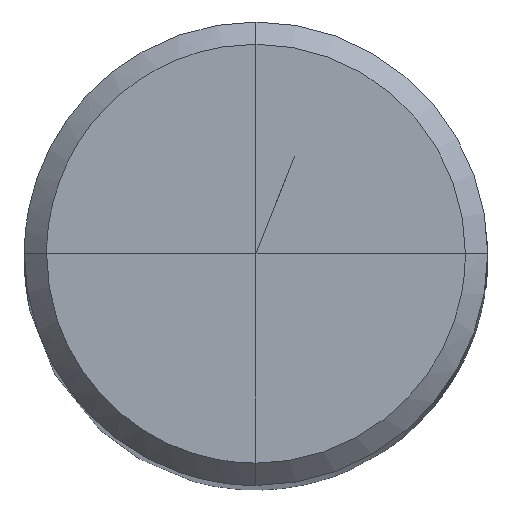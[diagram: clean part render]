
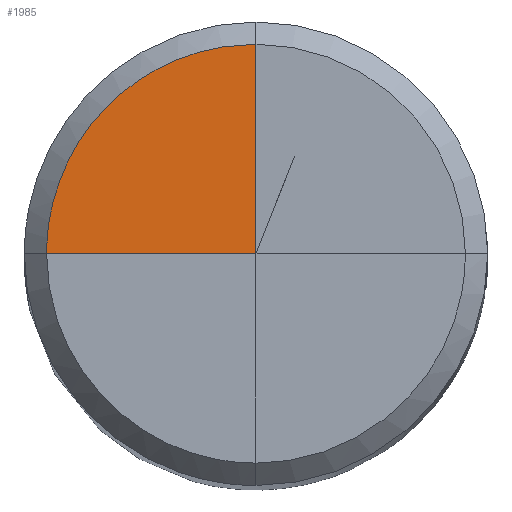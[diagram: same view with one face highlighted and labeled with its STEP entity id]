
A CAD part, top view. The second image highlights one B-rep face of the part: STEP entity #1985.
In plain terms, the highlighted free-form (B-spline) face has degree [5, 1] with [9, 2] control points.
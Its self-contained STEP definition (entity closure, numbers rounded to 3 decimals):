
#1048=CARTESIAN_POINT('Vertex',(-3.615,0.,63.)) ;
#1542=CARTESIAN_POINT('Control Point',(0.,3.615,63.)) ;
#1543=CARTESIAN_POINT('Control Point',(-0.222,3.615,63.)) ;
#1544=CARTESIAN_POINT('Control Point',(-0.451,3.598,63.)) ;
#1545=CARTESIAN_POINT('Control Point',(-0.686,3.562,63.)) ;
#1546=CARTESIAN_POINT('Control Point',(-1.158,3.447,63.)) ;
#1547=CARTESIAN_POINT('Control Point',(-1.621,3.246,63.)) ;
#1548=CARTESIAN_POINT('Control Point',(-1.847,3.124,63.)) ;
#1549=CARTESIAN_POINT('Control Point',(-2.279,2.836,63.)) ;
#1550=CARTESIAN_POINT('Control Point',(-2.656,2.473,63.)) ;
#1551=CARTESIAN_POINT('Control Point',(-2.828,2.275,63.)) ;
#1552=CARTESIAN_POINT('Control Point',(-3.131,1.852,63.)) ;
#1553=CARTESIAN_POINT('Control Point',(-3.35,1.393,63.)) ;
#1554=CARTESIAN_POINT('Control Point',(-3.438,1.158,63.)) ;
#1555=CARTESIAN_POINT('Control Point',(-3.533,0.816,63.)) ;
#1556=CARTESIAN_POINT('Control Point',(-3.586,0.478,63.)) ;
#1557=CARTESIAN_POINT('Control Point',(-3.598,0.374,63.)) ;
#1558=CARTESIAN_POINT('Control Point',(-3.609,0.236,63.)) ;
#1559=CARTESIAN_POINT('Control Point',(-3.614,0.101,63.)) ;
#1560=CARTESIAN_POINT('Control Point',(-3.615,0.067,63.)) ;
#1561=CARTESIAN_POINT('Control Point',(-3.615,0.033,63.)) ;
#1562=CARTESIAN_POINT('Control Point',(-3.615,0.,63.)) ;
#1563=CARTESIAN_POINT('Vertex',(0.,3.615,63.)) ;
#1718=CARTESIAN_POINT('Vertex',(0.,0.,63.)) ;
#1752=CARTESIAN_POINT('Control Point',(-3.615,0.,63.)) ;
#1753=CARTESIAN_POINT('Control Point',(0.,0.,63.)) ;
#1958=CARTESIAN_POINT('Control Point',(0.,3.615,63.)) ;
#1959=CARTESIAN_POINT('Control Point',(0.,0.,63.)) ;
#1960=CARTESIAN_POINT('Control Point',(-0.511,3.615,63.)) ;
#1961=CARTESIAN_POINT('Control Point',(0.,0.,63.)) ;
#1962=CARTESIAN_POINT('Control Point',(-1.059,3.525,63.)) ;
#1963=CARTESIAN_POINT('Control Point',(0.,0.,63.)) ;
#1964=CARTESIAN_POINT('Control Point',(-1.622,3.316,63.)) ;
#1965=CARTESIAN_POINT('Control Point',(0.,0.,63.)) ;
#1966=CARTESIAN_POINT('Control Point',(-2.644,2.644,63.)) ;
#1967=CARTESIAN_POINT('Control Point',(0.,0.,63.)) ;
#1968=CARTESIAN_POINT('Control Point',(-3.316,1.622,63.)) ;
#1969=CARTESIAN_POINT('Control Point',(0.,0.,63.)) ;
#1970=CARTESIAN_POINT('Control Point',(-3.525,1.059,63.)) ;
#1971=CARTESIAN_POINT('Control Point',(0.,0.,63.)) ;
#1972=CARTESIAN_POINT('Control Point',(-3.615,0.511,63.)) ;
#1973=CARTESIAN_POINT('Control Point',(0.,0.,63.)) ;
#1974=CARTESIAN_POINT('Control Point',(-3.615,0.,63.)) ;
#1975=CARTESIAN_POINT('Control Point',(0.,0.,63.)) ;
#1977=CARTESIAN_POINT('Control Point',(0.,3.615,63.)) ;
#1978=CARTESIAN_POINT('Control Point',(0.,0.,63.)) ;
#1981=ORIENTED_EDGE('',*,*,#1754,.T.) ;
#1982=ORIENTED_EDGE('',*,*,#1979,.F.) ;
#1983=ORIENTED_EDGE('',*,*,#1565,.T.) ;
#1985=ADVANCED_FACE('NOCUT',(#1984),#1957,.T.) ;
#1541=B_SPLINE_CURVE_WITH_KNOTS('',5,(#1542,#1543,#1544,#1545,#1546,#1547,#1548,#1549,#1550,#1551,#1552,#1553,#1554,#1555,#1556,#1557,#1558,#1559,#1560,#1561,#1562),.UNSPECIFIED.,.F.,.U.,(6,3,3,3,3,3,6),(1.979,3.282,4.585,5.887,7.19,7.777,7.973),.UNSPECIFIED.) ;
#1751=B_SPLINE_CURVE_WITH_KNOTS('',1,(#1752,#1753),.UNSPECIFIED.,.F.,.U.,(2,2),(0.519,4.187),.UNSPECIFIED.) ;
#1976=B_SPLINE_CURVE_WITH_KNOTS('',1,(#1977,#1978),.UNSPECIFIED.,.F.,.U.,(2,2),(0.519,4.187),.UNSPECIFIED.) ;
#1957=B_SPLINE_SURFACE_WITH_KNOTS('',5,1,((#1958,#1959),(#1960,#1961),(#1962,#1963),(#1964,#1965),(#1966,#1967),(#1968,#1969),(#1970,#1971),(#1972,#1973),(#1974,#1975)),.UNSPECIFIED.,.F.,.F.,.U.,(6,3,6),(2,2),(4.398,5.836,7.275),(0.519,4.187),.UNSPECIFIED.) ;
#1565=EDGE_CURVE('',#1564,#1049,#1541,.T.) ;
#1754=EDGE_CURVE('',#1049,#1719,#1751,.T.) ;
#1979=EDGE_CURVE('',#1564,#1719,#1976,.T.) ;
#1980=EDGE_LOOP('',(#1981,#1982,#1983)) ;
#1984=FACE_OUTER_BOUND('',#1980,.T.) ;
#1049=VERTEX_POINT('',#1048) ;
#1564=VERTEX_POINT('',#1563) ;
#1719=VERTEX_POINT('',#1718) ;
